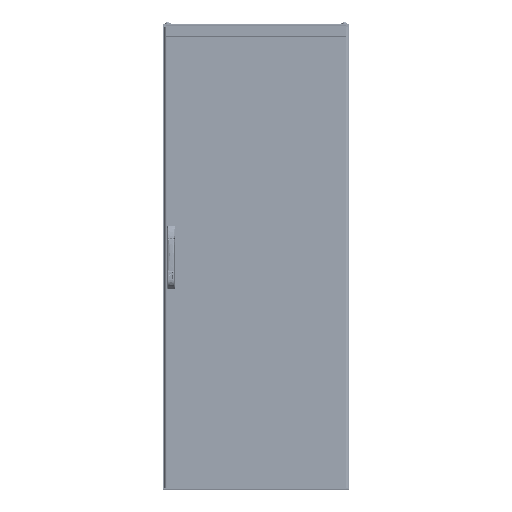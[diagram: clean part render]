
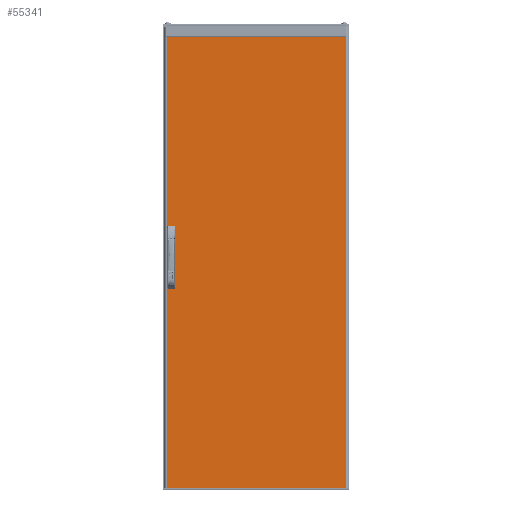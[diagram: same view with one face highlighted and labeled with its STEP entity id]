
A CAD part, top view. The second image highlights one B-rep face of the part: STEP entity #55341.
In plain terms, the highlighted planar face has unit normal (0, 0, 1) as drawn and (0, -1, 0) by its records, which use the part's own axes.
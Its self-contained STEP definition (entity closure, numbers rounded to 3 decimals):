
#763 = VERTEX_POINT ( 'NONE', #158599 ) ;
#7410 = LINE ( 'NONE', #253810, #70515 ) ;
#10219 = ORIENTED_EDGE ( 'NONE', *, *, #275902, .T. ) ;
#11683 = EDGE_CURVE ( 'NONE', #195043, #220908, #257426, .T. ) ;
#13873 = ORIENTED_EDGE ( 'NONE', *, *, #128475, .F. ) ;
#14325 = CARTESIAN_POINT ( 'NONE',  ( 958.75, 0., -14.645 ) ) ;
#14674 = FACE_BOUND ( 'NONE', #167113, .T. ) ;
#16934 = ORIENTED_EDGE ( 'NONE', *, *, #342129, .T. ) ;
#19348 = ORIENTED_EDGE ( 'NONE', *, *, #45422, .T. ) ;
#21796 = CARTESIAN_POINT ( 'NONE',  ( 958.75, 0., -23.145 ) ) ;
#25695 = EDGE_CURVE ( 'NONE', #763, #298659, #226168, .T. ) ;
#27068 = EDGE_CURVE ( 'NONE', #205835, #164739, #226293, .T. ) ;
#27325 = VECTOR ( 'NONE', #348616, 1000. ) ;
#28283 = CARTESIAN_POINT ( 'NONE',  ( 876.498, 0., -21.745 ) ) ;
#29192 = AXIS2_PLACEMENT_3D ( 'NONE', #140534, #245977, #192346 ) ;
#34273 = CARTESIAN_POINT ( 'NONE',  ( 876.498, 0., -18.895 ) ) ;
#34803 = EDGE_CURVE ( 'NONE', #763, #205835, #339014, .T. ) ;
#37025 = DIRECTION ( 'NONE',  ( -1., 0., 0. ) ) ;
#37509 = AXIS2_PLACEMENT_3D ( 'NONE', #167682, #323231, #244593 ) ;
#41342 = VECTOR ( 'NONE', #37025, 1000. ) ;
#42458 = CARTESIAN_POINT ( 'NONE',  ( 1024.25, 0., -23.145 ) ) ;
#43737 = CARTESIAN_POINT ( 'NONE',  ( 1983., 0., 0. ) ) ;
#45182 = CARTESIAN_POINT ( 'NONE',  ( 1983., 0., -0.1 ) ) ;
#45422 = EDGE_CURVE ( 'NONE', #220908, #70550, #239099, .T. ) ;
#46266 = EDGE_CURVE ( 'NONE', #113115, #147644, #345507, .T. ) ;
#55341 = ADVANCED_FACE ( 'NONE', ( #14674, #309386, #177145, #314685 ), #228995, .T. ) ;
#56937 = DIRECTION ( 'NONE',  ( 0., 1., 0. ) ) ;
#61553 = ORIENTED_EDGE ( 'NONE', *, *, #172132, .T. ) ;
#61660 = VECTOR ( 'NONE', #303013, 1000. ) ;
#63609 = CARTESIAN_POINT ( 'NONE',  ( 876.498, 0., -16.045 ) ) ;
#64212 = EDGE_CURVE ( 'NONE', #216480, #298659, #7410, .T. ) ;
#67655 = ORIENTED_EDGE ( 'NONE', *, *, #34803, .F. ) ;
#70515 = VECTOR ( 'NONE', #282368, 1000. ) ;
#70550 = VERTEX_POINT ( 'NONE', #42458 ) ;
#71064 = CARTESIAN_POINT ( 'NONE',  ( 1983., 0., 0. ) ) ;
#72364 = DIRECTION ( 'NONE',  ( 0., 0., 1. ) ) ;
#73744 = VERTEX_POINT ( 'NONE', #313107 ) ;
#77644 = LINE ( 'NONE', #295446, #350993 ) ;
#79407 = LINE ( 'NONE', #136492, #170981 ) ;
#85106 = AXIS2_PLACEMENT_3D ( 'NONE', #351714, #56937, #137345 ) ;
#91388 = DIRECTION ( 'NONE',  ( 0., 0., 1. ) ) ;
#97295 = CARTESIAN_POINT ( 'NONE',  ( 0., 0., -0.1 ) ) ;
#98283 = EDGE_LOOP ( 'NONE', ( #61553, #233177 ) ) ;
#98923 = ORIENTED_EDGE ( 'NONE', *, *, #148511, .F. ) ;
#107625 = AXIS2_PLACEMENT_3D ( 'NONE', #306440, #170697, #302903 ) ;
#111619 = CIRCLE ( 'NONE', #157209, 2.85 ) ;
#112638 = AXIS2_PLACEMENT_3D ( 'NONE', #118298, #121834, #343270 ) ;
#113115 = VERTEX_POINT ( 'NONE', #197208 ) ;
#118298 = CARTESIAN_POINT ( 'NONE',  ( 0., 0., -772. ) ) ;
#121714 = CARTESIAN_POINT ( 'NONE',  ( 958.75, 0., -14.645 ) ) ;
#121834 = DIRECTION ( 'NONE',  ( 0., -1., 0. ) ) ;
#123472 = VERTEX_POINT ( 'NONE', #63609 ) ;
#124055 = EDGE_CURVE ( 'NONE', #147644, #113115, #148259, .T. ) ;
#126825 = VECTOR ( 'NONE', #198366, 1000. ) ;
#128475 = EDGE_CURVE ( 'NONE', #164739, #136191, #282321, .T. ) ;
#136040 = ORIENTED_EDGE ( 'NONE', *, *, #27068, .F. ) ;
#136191 = VERTEX_POINT ( 'NONE', #137129 ) ;
#136492 = CARTESIAN_POINT ( 'NONE',  ( 0., 0., 0. ) ) ;
#136908 = ORIENTED_EDGE ( 'NONE', *, *, #199335, .F. ) ;
#137129 = CARTESIAN_POINT ( 'NONE',  ( 0., 0., -771.9 ) ) ;
#137345 = DIRECTION ( 'NONE',  ( 0., 0., 1. ) ) ;
#140534 = CARTESIAN_POINT ( 'NONE',  ( 958.75, 0., -18.895 ) ) ;
#143654 = CARTESIAN_POINT ( 'NONE',  ( 1983., 0., -772. ) ) ;
#147644 = VERTEX_POINT ( 'NONE', #170134 ) ;
#148259 = CIRCLE ( 'NONE', #188253, 2.85 ) ;
#148511 = EDGE_CURVE ( 'NONE', #178752, #216480, #79407, .T. ) ;
#148967 = VECTOR ( 'NONE', #295335, 1000. ) ;
#157209 = AXIS2_PLACEMENT_3D ( 'NONE', #34273, #227088, #91388 ) ;
#158599 = CARTESIAN_POINT ( 'NONE',  ( 1983., 0., -771.9 ) ) ;
#161152 = EDGE_CURVE ( 'NONE', #70550, #73744, #287954, .T. ) ;
#162101 = EDGE_CURVE ( 'NONE', #316142, #123472, #193229, .T. ) ;
#164739 = VERTEX_POINT ( 'NONE', #287178 ) ;
#167113 = EDGE_LOOP ( 'NONE', ( #16934, #292617, #19348, #319192 ) ) ;
#167682 = CARTESIAN_POINT ( 'NONE',  ( 1106.5, 0., -18.895 ) ) ;
#170134 = CARTESIAN_POINT ( 'NONE',  ( 1106.5, 0., -16.045 ) ) ;
#170697 = DIRECTION ( 'NONE',  ( 0., 1., 0. ) ) ;
#170981 = VECTOR ( 'NONE', #349128, 1000. ) ;
#172132 = EDGE_CURVE ( 'NONE', #123472, #316142, #111619, .T. ) ;
#176410 = DIRECTION ( 'NONE',  ( 0., 0., -1. ) ) ;
#177145 = FACE_BOUND ( 'NONE', #98283, .T. ) ;
#178752 = VERTEX_POINT ( 'NONE', #179318 ) ;
#179318 = CARTESIAN_POINT ( 'NONE',  ( 0., 0., 0. ) ) ;
#185710 = VERTEX_POINT ( 'NONE', #304809 ) ;
#188253 = AXIS2_PLACEMENT_3D ( 'NONE', #295051, #293321, #323670 ) ;
#192346 = DIRECTION ( 'NONE',  ( 0., 0., 1. ) ) ;
#193229 = CIRCLE ( 'NONE', #107625, 2.85 ) ;
#194059 = ORIENTED_EDGE ( 'NONE', *, *, #25695, .T. ) ;
#195043 = VERTEX_POINT ( 'NONE', #14325 ) ;
#195860 = CARTESIAN_POINT ( 'NONE',  ( 1983., 0., -771.9 ) ) ;
#197208 = CARTESIAN_POINT ( 'NONE',  ( 1106.5, 0., -21.745 ) ) ;
#198366 = DIRECTION ( 'NONE',  ( 0., 0., 1. ) ) ;
#199335 = EDGE_CURVE ( 'NONE', #185710, #178752, #77644, .T. ) ;
#200209 = CIRCLE ( 'NONE', #29192, 4.25 ) ;
#200702 = VECTOR ( 'NONE', #230655, 1000. ) ;
#205663 = ORIENTED_EDGE ( 'NONE', *, *, #46266, .T. ) ;
#205835 = VERTEX_POINT ( 'NONE', #143654 ) ;
#208890 = ORIENTED_EDGE ( 'NONE', *, *, #124055, .T. ) ;
#216480 = VERTEX_POINT ( 'NONE', #43737 ) ;
#220908 = VERTEX_POINT ( 'NONE', #330790 ) ;
#224531 = ORIENTED_EDGE ( 'NONE', *, *, #64212, .F. ) ;
#226168 = LINE ( 'NONE', #195860, #61660 ) ;
#226293 = LINE ( 'NONE', #337039, #41342 ) ;
#227088 = DIRECTION ( 'NONE',  ( 0., 1., 0. ) ) ;
#228995 = PLANE ( 'NONE',  #112638 ) ;
#230655 = DIRECTION ( 'NONE',  ( 1., 0., 0. ) ) ;
#233177 = ORIENTED_EDGE ( 'NONE', *, *, #162101, .T. ) ;
#239099 = CIRCLE ( 'NONE', #85106, 4.25 ) ;
#239985 = EDGE_LOOP ( 'NONE', ( #208890, #205663 ) ) ;
#244593 = DIRECTION ( 'NONE',  ( 0., 0., 1. ) ) ;
#245977 = DIRECTION ( 'NONE',  ( 0., 1., 0. ) ) ;
#248456 = CARTESIAN_POINT ( 'NONE',  ( 0., 0., 0. ) ) ;
#253810 = CARTESIAN_POINT ( 'NONE',  ( 1983., 0., 0. ) ) ;
#257426 = LINE ( 'NONE', #121714, #200702 ) ;
#263325 = LINE ( 'NONE', #97295, #148967 ) ;
#275902 = EDGE_CURVE ( 'NONE', #185710, #136191, #263325, .T. ) ;
#282321 = LINE ( 'NONE', #248456, #126825 ) ;
#282368 = DIRECTION ( 'NONE',  ( 0., 0., -1. ) ) ;
#287178 = CARTESIAN_POINT ( 'NONE',  ( 0., 0., -772. ) ) ;
#287954 = LINE ( 'NONE', #21796, #27325 ) ;
#292617 = ORIENTED_EDGE ( 'NONE', *, *, #11683, .T. ) ;
#293321 = DIRECTION ( 'NONE',  ( 0., 1., 0. ) ) ;
#295051 = CARTESIAN_POINT ( 'NONE',  ( 1106.5, 0., -18.895 ) ) ;
#295335 = DIRECTION ( 'NONE',  ( 0., 0., -1. ) ) ;
#295446 = CARTESIAN_POINT ( 'NONE',  ( 0., 0., 0. ) ) ;
#298659 = VERTEX_POINT ( 'NONE', #45182 ) ;
#302903 = DIRECTION ( 'NONE',  ( 0., 0., 1. ) ) ;
#303013 = DIRECTION ( 'NONE',  ( 0., 0., 1. ) ) ;
#304809 = CARTESIAN_POINT ( 'NONE',  ( 0., 0., -0.1 ) ) ;
#306440 = CARTESIAN_POINT ( 'NONE',  ( 876.498, 0., -18.895 ) ) ;
#309386 = FACE_BOUND ( 'NONE', #239985, .T. ) ;
#313107 = CARTESIAN_POINT ( 'NONE',  ( 958.75, 0., -23.145 ) ) ;
#314685 = FACE_OUTER_BOUND ( 'NONE', #337197, .T. ) ;
#316142 = VERTEX_POINT ( 'NONE', #28283 ) ;
#319192 = ORIENTED_EDGE ( 'NONE', *, *, #161152, .T. ) ;
#323231 = DIRECTION ( 'NONE',  ( 0., 1., 0. ) ) ;
#323670 = DIRECTION ( 'NONE',  ( 0., 0., 1. ) ) ;
#330790 = CARTESIAN_POINT ( 'NONE',  ( 1024.25, 0., -14.645 ) ) ;
#337039 = CARTESIAN_POINT ( 'NONE',  ( 0., 0., -772. ) ) ;
#337197 = EDGE_LOOP ( 'NONE', ( #13873, #136040, #67655, #194059, #224531, #98923, #136908, #10219 ) ) ;
#339014 = LINE ( 'NONE', #71064, #352837 ) ;
#342129 = EDGE_CURVE ( 'NONE', #73744, #195043, #200209, .T. ) ;
#343270 = DIRECTION ( 'NONE',  ( 0., 0., -1. ) ) ;
#345507 = CIRCLE ( 'NONE', #37509, 2.85 ) ;
#348616 = DIRECTION ( 'NONE',  ( -1., 0., 0. ) ) ;
#349128 = DIRECTION ( 'NONE',  ( 1., 0., 0. ) ) ;
#350993 = VECTOR ( 'NONE', #72364, 1000. ) ;
#351714 = CARTESIAN_POINT ( 'NONE',  ( 1024.25, 0., -18.895 ) ) ;
#352837 = VECTOR ( 'NONE', #176410, 1000. ) ;
